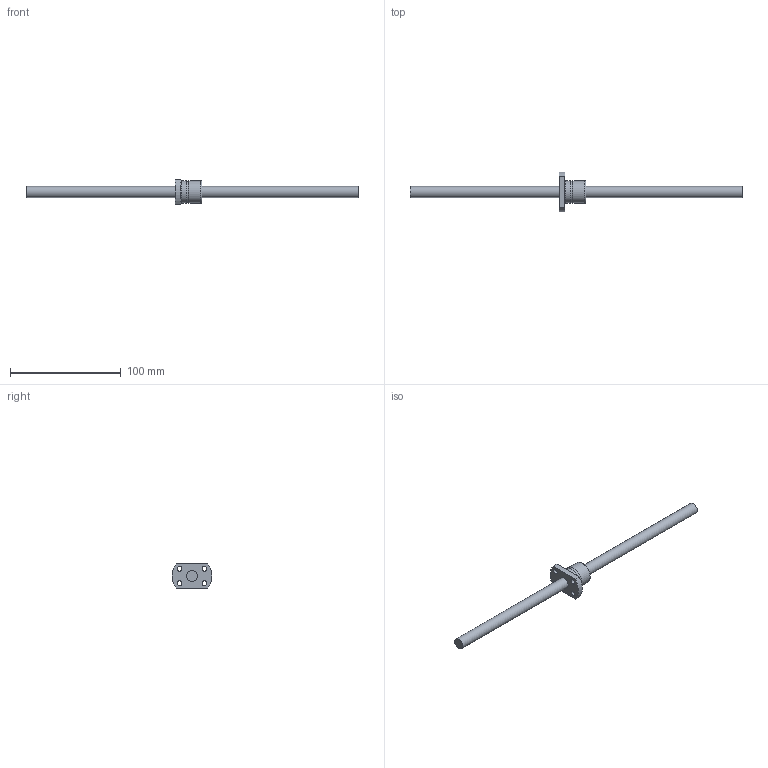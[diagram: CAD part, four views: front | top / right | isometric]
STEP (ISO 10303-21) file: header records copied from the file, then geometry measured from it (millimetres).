
FILE_DESCRIPTION((''),'2;1');
FILE_NAME('D:\製品 (図面)\カタログ用3D\ネジ関連\STEP形式\TMK-OH\TMK10-OH.stp','2010-06-02T15:26:52',('Tsuchiya'),(''),'Autodesk Inventor 10','Autodesk Inventor 10','');
FILE_SCHEMA(('AUTOMOTIVE_DESIGN { 1 0 10303 214 1 1 1 1 }'));
Length unit declared in the file: millimetre
Products named in the file (3): TMK10-OH; TMK10-OH1; TMK10-OH2
Assembly tree (2 placements, depth 2):
  TMK10-OH
    TMK10-OH1
    TMK10-OH2
Bounding box: 300 x 36 x 22 mm (x, y, z)
Volume: 30982.3 mm3; surface area: 13515 mm2
Topology: 2 solids, 2 shells, 21 faces, 49 edges, 33 vertices
Faces by surface type: cylinder 7, plane 7, bspline 6, torus 1
Full cylindrical faces by diameter (mm): 1.5 x1, 10 x2, 20 x2
Entity records: 868 total; most frequent: CARTESIAN_POINT 374, DIRECTION 92, ORIENTED_EDGE 64, EDGE_LOOP 46, AXIS2_PLACEMENT_3D 42, EDGE_CURVE 32, VERTEX_POINT 28, FACE_BOUND 25
